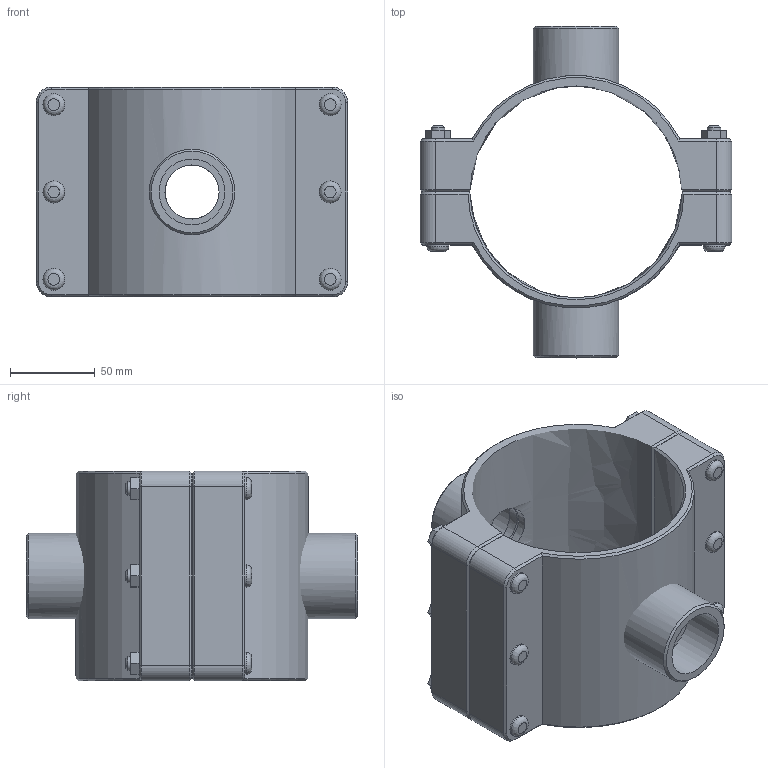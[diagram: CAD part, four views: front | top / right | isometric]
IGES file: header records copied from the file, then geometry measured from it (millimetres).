
Global section: file name: 161760125013_161860125013.ipt; native system: Autodesk Inventor 2015; preprocessor: unknown; author: KIM; date: 20170618.093751; units: millimetre
Bounding box: 184 x 196 x 124 mm (x, y, z)
Volume: 766495.8 mm3; surface area: 160875.6 mm2
Topology: 3 solids, 3 shells, 179 faces, 416 edges, 265 vertices
Faces by surface type: plane 102, cylinder 30, cone 28, revolution 19
Full cylindrical faces by diameter (mm): 8 x6, 13 x12, 50.638 x2
